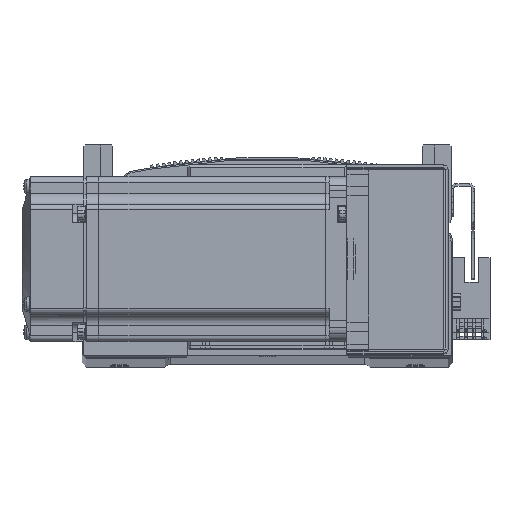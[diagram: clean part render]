
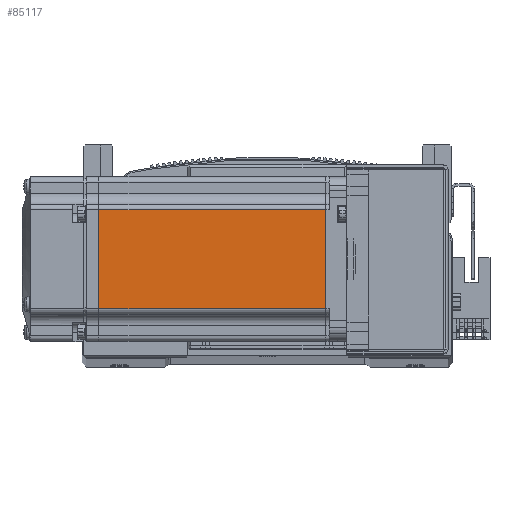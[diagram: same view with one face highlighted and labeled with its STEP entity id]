
A CAD part, top view. The second image highlights one B-rep face of the part: STEP entity #85117.
In plain terms, the highlighted planar face has unit normal (0, 0, 1) as drawn and (0, -1, 0) by its records, which use the part's own axes.
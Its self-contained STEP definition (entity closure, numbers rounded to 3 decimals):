
#3267 = EDGE_CURVE ( 'NONE', #34483, #34609, #79589, .T. ) ;
#3272 = EDGE_CURVE ( 'NONE', #34473, #34645, #79631, .T. ) ;
#3350 = EDGE_CURVE ( 'NONE', #34473, #34483, #79963, .T. ) ;
#3359 = EDGE_CURVE ( 'NONE', #34645, #34609, #80019, .T. ) ;
#6207 = ORIENTED_EDGE ( 'NONE', *, *, #3272, .F. ) ;
#6223 = ORIENTED_EDGE ( 'NONE', *, *, #3359, .F. ) ;
#6232 = ORIENTED_EDGE ( 'NONE', *, *, #3267, .T. ) ;
#6236 = ORIENTED_EDGE ( 'NONE', *, *, #3350, .T. ) ;
#12210 = CARTESIAN_POINT ( 'NONE',  ( -7.75, -30., 18. ) ) ;
#12325 = CARTESIAN_POINT ( 'NONE',  ( -90.45, -30., 18. ) ) ;
#12343 = CARTESIAN_POINT ( 'NONE',  ( -90.45, -30., -18. ) ) ;
#12440 = CARTESIAN_POINT ( 'NONE',  ( -7.75, -30., -18. ) ) ;
#34473 = VERTEX_POINT ( 'NONE', #12210 ) ;
#34483 = VERTEX_POINT ( 'NONE', #12325 ) ;
#34609 = VERTEX_POINT ( 'NONE', #12343 ) ;
#34645 = VERTEX_POINT ( 'NONE', #12440 ) ;
#35815 = EDGE_LOOP ( 'NONE', ( #6207, #6236, #6232, #6223 ) ) ;
#37574 = DIRECTION ( 'NONE',  ( 0., 0., -1. ) ) ;
#37580 = DIRECTION ( 'NONE',  ( 0., 0., -1. ) ) ;
#37600 = CARTESIAN_POINT ( 'NONE',  ( -90.45, -30., 0. ) ) ;
#37621 = CARTESIAN_POINT ( 'NONE',  ( -7.75, -30., 0. ) ) ;
#37815 = DIRECTION ( 'NONE',  ( -1., 0., 0. ) ) ;
#37827 = CARTESIAN_POINT ( 'NONE',  ( -6.5, -30., 18. ) ) ;
#37860 = CARTESIAN_POINT ( 'NONE',  ( -6.5, -30., -18. ) ) ;
#37865 = DIRECTION ( 'NONE',  ( -1., 0., 0. ) ) ;
#57604 = AXIS2_PLACEMENT_3D ( 'NONE', #82946, #82986, #82987 ) ;
#79496 = VECTOR ( 'NONE', #37574, 1000. ) ;
#79568 = VECTOR ( 'NONE', #37580, 1000. ) ;
#79589 = LINE ( 'NONE', #37600, #79568 ) ;
#79631 = LINE ( 'NONE', #37621, #79496 ) ;
#79871 = VECTOR ( 'NONE', #37865, 1000. ) ;
#79963 = LINE ( 'NONE', #37827, #80002 ) ;
#80002 = VECTOR ( 'NONE', #37815, 1000. ) ;
#80019 = LINE ( 'NONE', #37860, #79871 ) ;
#80624 = FACE_OUTER_BOUND ( 'NONE', #35815, .T. ) ;
#82946 = CARTESIAN_POINT ( 'NONE',  ( -6.5, -30., -25. ) ) ;
#82954 = PLANE ( 'NONE',  #57604 ) ;
#82986 = DIRECTION ( 'NONE',  ( 0., -1., 0. ) ) ;
#82987 = DIRECTION ( 'NONE',  ( 0., 0., -1. ) ) ;
#85117 = ADVANCED_FACE ( 'NONE', ( #80624 ), #82954, .T. ) ;
